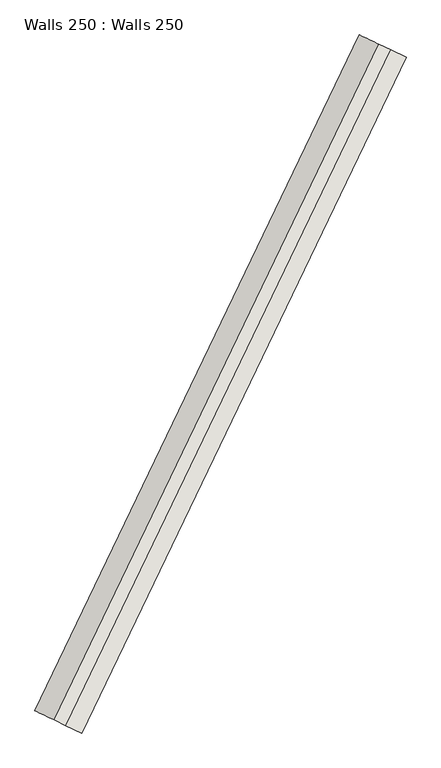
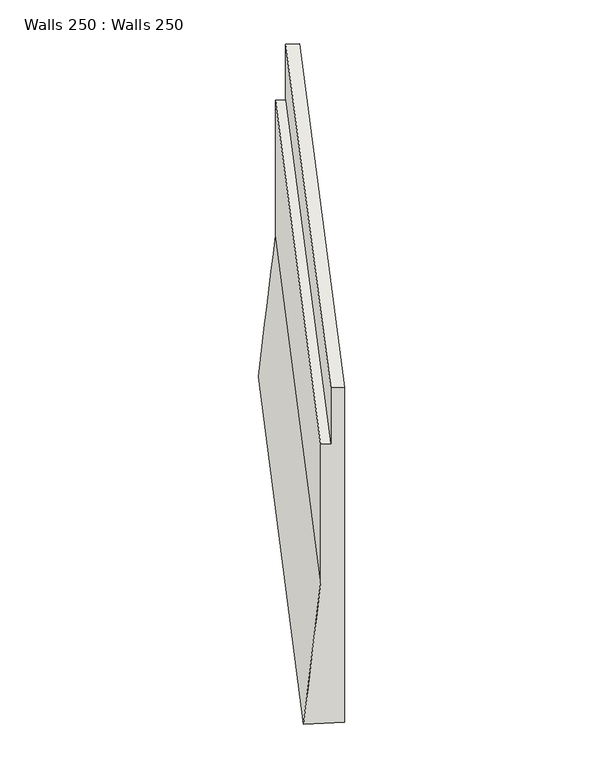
"""IFC4 building model written with IfcOpenShell, lengths in millimetres: wall geometry, Walls 250 : Walls 250."""

from ifc_helpers import new_model, si_unit, frame, origin, place, context, project, spatial, source, transform, mapped, element, save
from ifc_brep_helpers import plane_surface, spline_surface, advanced_brep


def walls_250_walls_250_8f152457(model_context):
    return source(origin(), model_context, "Body", "AdvancedBrep", [
        advanced_brep(
        [(430130.5804187, 376054.4051726, 647020.0), (430130.5804187, 376054.4051726, 652990.0), (429950.2988122, 376140.9992969, 652990.0), (429950.2988122, 376140.9992969, 651990.0), (429815.0876074, 376205.9448901, 651990.0), (429815.0876074, 376205.9448901, 649520.0), (429589.7355992, 376314.1875455, 647020.0), (433897.4248238, 383896.6550543, 647130.3144842), (433356.8629507, 384156.3015204, 647130.3144842), (433581.9320127, 384048.1947717, 649627.1755463), (433581.9320127, 384048.1947717, 652045.8441425), (433717.1432174, 383983.2491785, 652045.8441425), (433717.1432174, 383983.2491785, 653030.8931992), (433897.4248238, 383896.6550543, 653030.8931992)],
        [
            (0, 1),
            (1, 2),
            (2, 3),
            (3, 4),
            (4, 5),
            (5, 6),
            (6, 0),
            (7, 8),
            (8, 9),
            (9, 10),
            (10, 11),
            (11, 12),
            (12, 13),
            (13, 7),
            (13, 1),
            (0, 7),
            (12, 2),
            (11, 3),
            (10, 4),
            (9, 5),
            (8, 6),
        ],
        [
            plane_surface(frame((429911.6670394, 376159.5551807, 650502.8571429), z_axis=(-0.4329706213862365, -0.9014080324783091, 0.0), x_axis=(-0.9014080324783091, 0.4329706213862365, 0.0))),
            plane_surface(frame((433678.5518655, 384001.7856471, 650577.3255997), z_axis=(0.4329706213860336, 0.9014080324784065, 0.0), x_axis=(0.0, 0.0, 1.0))),
            plane_surface(frame((433897.4248238, 383896.6550543, 650080.6038417), z_axis=(0.9014080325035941, -0.43297062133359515, 0.0), x_axis=(0.0, 0.0, 1.0))),
            plane_surface(frame((433807.2840206, 383939.9521164, 653030.8931992), z_axis=(-0.0020350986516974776, -0.004236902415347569, 0.9999889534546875), x_axis=(-0.9014080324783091, 0.4329706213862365, 0.0))),
            plane_surface(frame((433717.1432174, 383983.2491785, 652538.3686709), z_axis=(-0.9014080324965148, 0.43297062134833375, 0.0), x_axis=(0.0, 0.0, -1.0))),
            plane_surface(frame((433649.5376151, 384015.7219751, 652045.8441425), z_axis=(-0.0027791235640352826, -0.005785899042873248, 0.9999793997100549), x_axis=(-0.9014080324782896, 0.4329706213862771, 0.0))),
            plane_surface(frame((433581.9320127, 384048.1947717, 650836.5098444), z_axis=(-0.9014080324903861, 0.432970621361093, 0.0), x_axis=(0.0, 0.0, -1.0))),
            spline_surface(1, 1, [[(433581.9320127, 384048.1947717, 649627.1755463), (429815.0876074, 376205.9448901, 649520.0)], [(433356.8629507, 384156.3015204, 647130.3144842), (429589.7355992, 376314.1875455, 647020.0)]], [2, 2], [2, 2], [0.0, 1.0], [0.0, 1.0]),
            plane_surface(frame((433627.1438873, 384026.4782873, 647130.3144842), z_axis=(0.005489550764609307, 0.011428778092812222, -0.9999196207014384), x_axis=(0.9014080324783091, -0.4329706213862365, 1.3860699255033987e-12))),
        ],
        [
            (0, [[1, 2, 3, 4, 5, 6, 7]]),
            (1, [[8, 9, 10, 11, 12, 13, 14]]),
            (2, [[-14, 15, -1, 16]]),
            (3, [[-13, 17, -2, -15]]),
            (4, [[-12, 18, -3, -17]]),
            (5, [[-11, 19, -4, -18]]),
            (6, [[-10, 20, -5, -19]]),
            (7, [[-9, 21, -6, -20]]),
            (8, [[-8, -16, -7, -21]]),
        ],
    ),
    ])


if __name__ == "__main__":
    model = new_model("IFC4")
    model_context = context("Model", 3, world=origin())
    ifc_project = project(units=[si_unit("LENGTHUNIT", "METRE", prefix="MILLI")], contexts=[model_context])
    site = spatial("IfcSite", under=ifc_project)
    building = spatial("IfcBuilding", under=site)
    placement = place(None, origin())
    walls_250_walls_250_shape = walls_250_walls_250_8f152457(model_context)
    element("IfcWall", 1, ObjectType="Walls 250 : Walls 250", at=placement, inside=building, context=model_context, shape_type="MappedRepresentation", body=[
        mapped(walls_250_walls_250_shape, transform((0.0, 0.0, 0.0), x_axis=(1.0, 0.0, 0.0), y_axis=(0.0, 1.0, 0.0), z_axis=(0.0, 0.0, 1.0))),
    ])
    save(model, "model.ifc")
